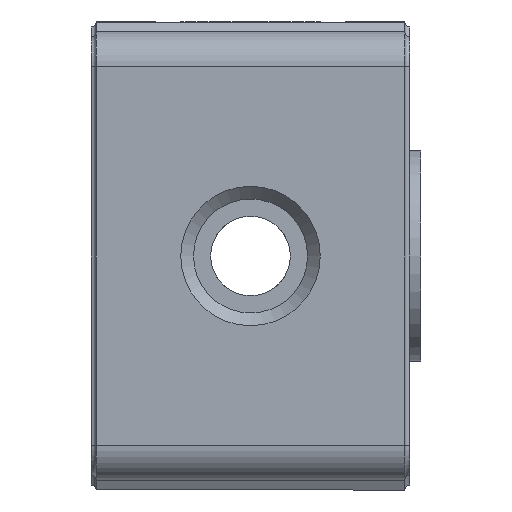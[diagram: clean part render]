
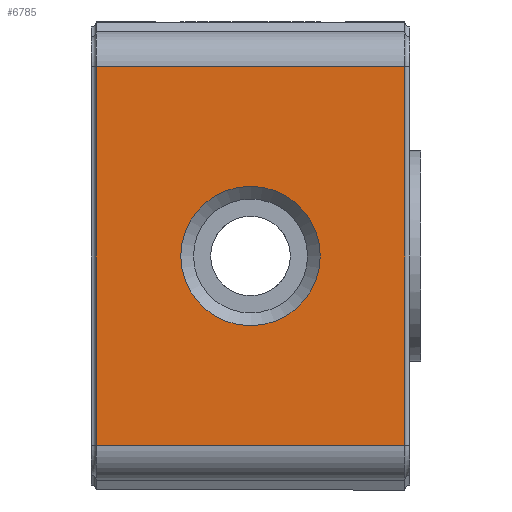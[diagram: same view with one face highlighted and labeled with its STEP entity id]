
A CAD part, front view. The second image highlights one B-rep face of the part: STEP entity #6785.
In plain terms, the highlighted planar face has unit normal (0, -1, 0).
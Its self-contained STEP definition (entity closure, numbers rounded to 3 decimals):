
#809=CARTESIAN_POINT('',(7.,-26.0,0.0));
#810=VERTEX_POINT('',#809);
#811=CARTESIAN_POINT('',(0.0,-26.0,0.0));
#812=DIRECTION('',(0.0,1.0,0.0));
#813=DIRECTION('',(1.0,0.0,0.0));
#814=AXIS2_PLACEMENT_3D('',#811,#812,#813);
#815=CIRCLE('',#814,7.);
#816=EDGE_CURVE('',#810,#810,#815,.T.);
#6003=CARTESIAN_POINT('',(15.5,-26.0,-19.));
#6004=VERTEX_POINT('',#6003);
#6035=CARTESIAN_POINT('',(15.5,-26.0,19.0));
#6036=VERTEX_POINT('',#6035);
#6037=CARTESIAN_POINT('',(15.5,-26.0,-19.));
#6038=DIRECTION('',(0.0,0.0,1.0));
#6039=VECTOR('',#6038,38.);
#6040=LINE('',#6037,#6039);
#6041=EDGE_CURVE('',#6004,#6036,#6040,.T.);
#6385=CARTESIAN_POINT('',(-15.5,-26.,-19.));
#6386=VERTEX_POINT('',#6385);
#6411=CARTESIAN_POINT('',(-15.5,-26.,19.0));
#6412=VERTEX_POINT('',#6411);
#6413=CARTESIAN_POINT('',(-15.5,-26.0,19.0));
#6414=DIRECTION('',(0.0,0.0,-1.0));
#6415=VECTOR('',#6414,38.);
#6416=LINE('',#6413,#6415);
#6417=EDGE_CURVE('',#6412,#6386,#6416,.T.);
#6750=CARTESIAN_POINT('',(15.5,-26.0,-19.0));
#6751=DIRECTION('',(-1.0,0.0,0.0));
#6752=VECTOR('',#6751,31.);
#6753=LINE('',#6750,#6752);
#6754=EDGE_CURVE('',#6004,#6386,#6753,.T.);
#6766=CARTESIAN_POINT('',(16.0,-26.0,0.0));
#6767=DIRECTION('',(0.0,-1.0,0.0));
#6768=DIRECTION('',(0.0,0.0,-1.0));
#6769=AXIS2_PLACEMENT_3D('',#6766,#6767,#6768);
#6770=PLANE('',#6769);
#6771=ORIENTED_EDGE('',*,*,#6041,.T.);
#6772=CARTESIAN_POINT('',(-15.5,-26.0,19.0));
#6773=DIRECTION('',(1.0,0.0,0.0));
#6774=VECTOR('',#6773,31.0);
#6775=LINE('',#6772,#6774);
#6776=EDGE_CURVE('',#6412,#6036,#6775,.T.);
#6777=ORIENTED_EDGE('',*,*,#6776,.F.);
#6778=ORIENTED_EDGE('',*,*,#6417,.T.);
#6779=ORIENTED_EDGE('',*,*,#6754,.F.);
#6780=EDGE_LOOP('',(#6771,#6777,#6778,#6779));
#6781=FACE_OUTER_BOUND('',#6780,.T.);
#6782=ORIENTED_EDGE('',*,*,#816,.T.);
#6783=EDGE_LOOP('',(#6782));
#6784=FACE_BOUND('',#6783,.T.);
#6785=ADVANCED_FACE('',(#6781,#6784),#6770,.T.);
